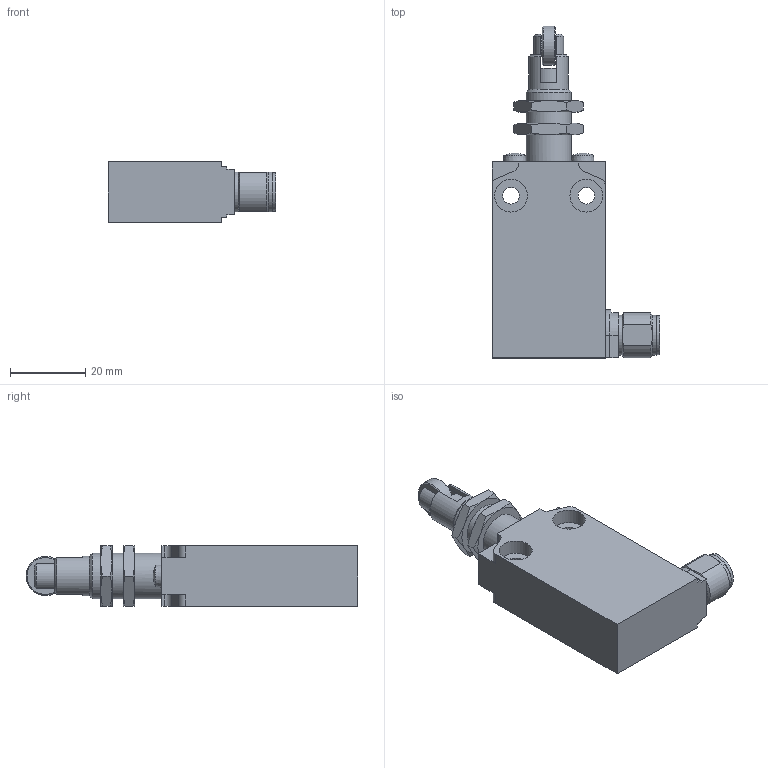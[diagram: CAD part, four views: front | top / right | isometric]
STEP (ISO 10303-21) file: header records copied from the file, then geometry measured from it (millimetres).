
FILE_DESCRIPTION(/* description */ (''),/* implementation_level */ '2;1');
FILE_NAME(/* name */ 'C:\Users\servizio.tecnico\Desktop\CADENAS\3D\EP1_STP\STP_EP1_G25M.stp',/* time_stamp */ '2017-09-04T11:18:11+02:00',/* author */ ('servizio.tecnico'),/* organization */ (''),/* preprocessor_version */ 'ST-DEVELOPER v16.1',/* originating_system */ 'Autodesk Inventor 2016',/* authorisation */ '');
FILE_SCHEMA (('AUTOMOTIVE_DESIGN { 1 0 10303 214 3 1 1 }'));
Length unit declared in the file: millimetre
Products named in the file (3): Product; EP1G25-M; BASE ASSI 
Assembly tree (2 placements, depth 3):
  BASE ASSI 
    EP1G25-M
      Product
Bounding box: 44.5 x 88 x 16 mm (x, y, z)
Volume: 28696.5 mm3; surface area: 11604.1 mm2
Topology: 6 solids, 6 shells, 169 faces, 405 edges, 255 vertices
Faces by surface type: plane 83, cone 41, cylinder 40, torus 3, sphere 2
Full cylindrical faces by diameter (mm): 4.4 x2, 5.6 x2, 7.95 x1, 8.05 x1, 8.7 x4, 10.3 x1, 10.4 x1, 10.5 x1, 10.6 x2, 12 x3
Entity records: 4734 total; most frequent: CARTESIAN_POINT 929, DIRECTION 784, ORIENTED_EDGE 734, EDGE_CURVE 367, AXIS2_PLACEMENT_3D 315, VERTEX_POINT 244, EDGE_LOOP 211, FACE_OUTER_BOUND 169
